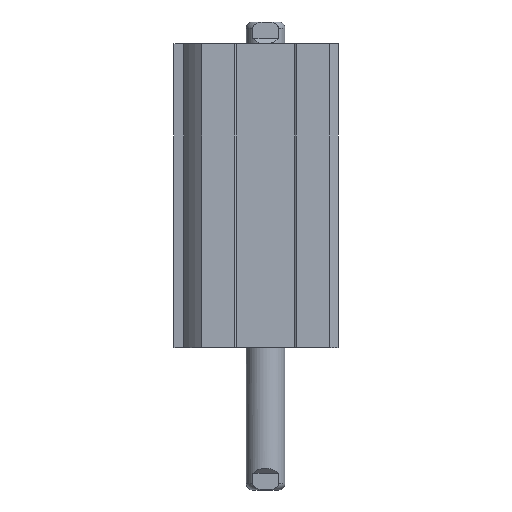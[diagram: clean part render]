
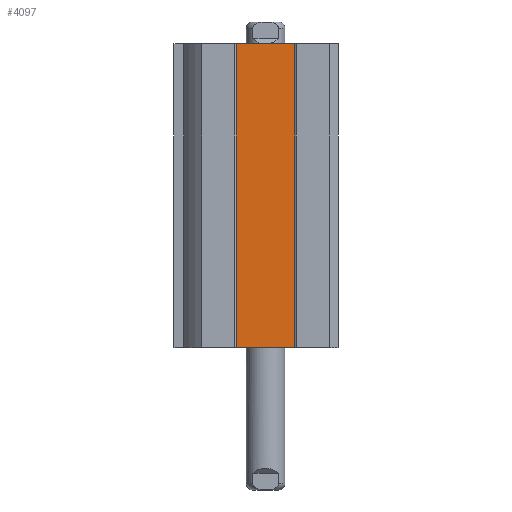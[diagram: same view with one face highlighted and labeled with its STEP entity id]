
A CAD part, left-side view. The second image highlights one B-rep face of the part: STEP entity #4097.
In plain terms, the highlighted planar face has unit normal (-1, 0, 0).
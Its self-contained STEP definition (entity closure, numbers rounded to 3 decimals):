
#134=PLANE('',#4362);
#229=LINE('',#5957,#395);
#230=LINE('',#5959,#396);
#231=LINE('',#5961,#397);
#232=LINE('',#5963,#398);
#395=VECTOR('',#4883,1000.);
#396=VECTOR('',#4886,1000.);
#397=VECTOR('',#4887,1000.);
#398=VECTOR('',#4888,1000.);
#626=ORIENTED_EDGE('',*,*,#1412,.T.);
#627=ORIENTED_EDGE('',*,*,#1411,.F.);
#628=ORIENTED_EDGE('',*,*,#1413,.T.);
#629=ORIENTED_EDGE('',*,*,#1414,.T.);
#1411=EDGE_CURVE('',#1809,#1808,#229,.T.);
#1412=EDGE_CURVE('',#1810,#1808,#230,.T.);
#1413=EDGE_CURVE('',#1809,#1811,#231,.T.);
#1414=EDGE_CURVE('',#1811,#1810,#232,.T.);
#1808=VERTEX_POINT('',#5954);
#1809=VERTEX_POINT('',#5956);
#1810=VERTEX_POINT('',#5960);
#1811=VERTEX_POINT('',#5962);
#2334=EDGE_LOOP('',(#626,#627,#628,#629));
#2661=FACE_BOUND('',#2334,.T.);
#4097=ADVANCED_FACE('',(#2661),#134,.T.);
#4362=AXIS2_PLACEMENT_3D('',#5958,#4884,#4885);
#4883=DIRECTION('',(0.,0.,1.));
#4884=DIRECTION('',(-1.,0.,0.));
#4885=DIRECTION('',(0.,0.,1.));
#4886=DIRECTION('',(0.,1.,0.));
#4887=DIRECTION('',(0.,-1.,0.));
#4888=DIRECTION('',(0.,0.,1.));
#5954=CARTESIAN_POINT('',(-10.,6.124,63.));
#5956=CARTESIAN_POINT('',(-10.,6.124,0.));
#5957=CARTESIAN_POINT('',(-10.,6.124,0.));
#5958=CARTESIAN_POINT('',(-10.,-6.124,0.));
#5959=CARTESIAN_POINT('',(-10.,-6.124,63.));
#5960=CARTESIAN_POINT('',(-10.,-6.124,63.));
#5961=CARTESIAN_POINT('',(-10.,6.124,0.));
#5962=CARTESIAN_POINT('',(-10.,-6.124,0.));
#5963=CARTESIAN_POINT('',(-10.,-6.124,0.));
